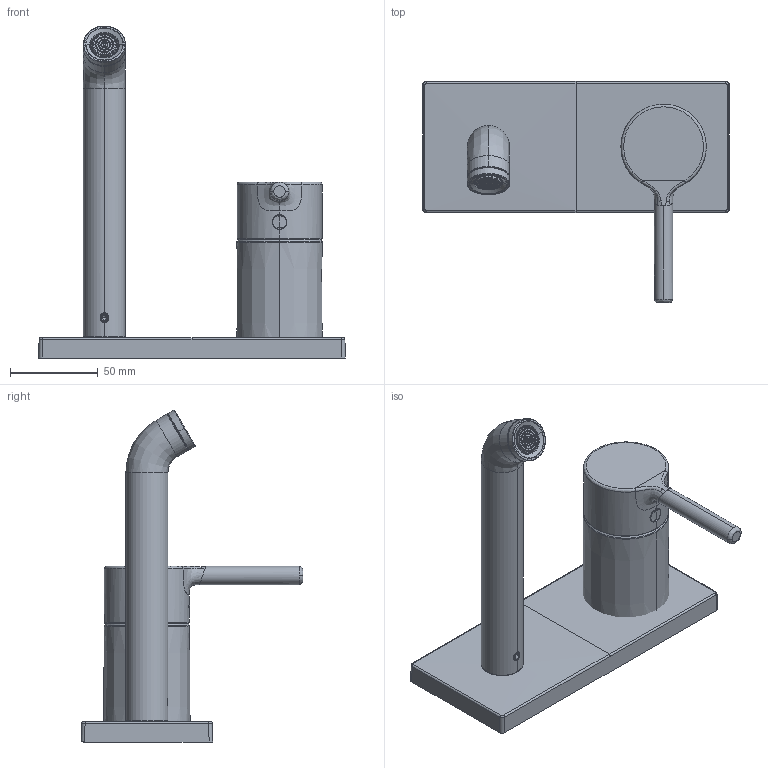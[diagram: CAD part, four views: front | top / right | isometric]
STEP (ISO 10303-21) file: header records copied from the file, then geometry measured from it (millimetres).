
FILE_DESCRIPTION (( 'STEP AP203' ), '1' );
FILE_NAME ('54802107(2022).STEP', '2022-10-27T10:59:48', ( '' ), ( '' ), 'SwSTEP 2.0', 'SolidWorks 2016', '' );
FILE_SCHEMA (( 'CONFIG_CONTROL_DESIGN' ));
Products named in the file (1): 54802107(2022)
Bounding box: 175 x 126.5 x 189.54 mm (x, y, z)
Volume: 367055.5 mm3; surface area: 89265.4 mm2
Topology: 9 solids, 17 shells, 3502 faces, 10169 edges, 6645 vertices
Faces by surface type: plane 2719, bspline 402, cylinder 313, cone 64, sphere 2, torus 2
Entity records: 140646 total; most frequent: CARTESIAN_POINT 59374, ORIENTED_EDGE 20294, DIRECTION 11405, EDGE_CURVE 10147, VERTEX_POINT 6645, B_SPLINE_CURVE_WITH_KNOTS 5710, EDGE_LOOP 4276, AXIS2_PLACEMENT_3D 4004
